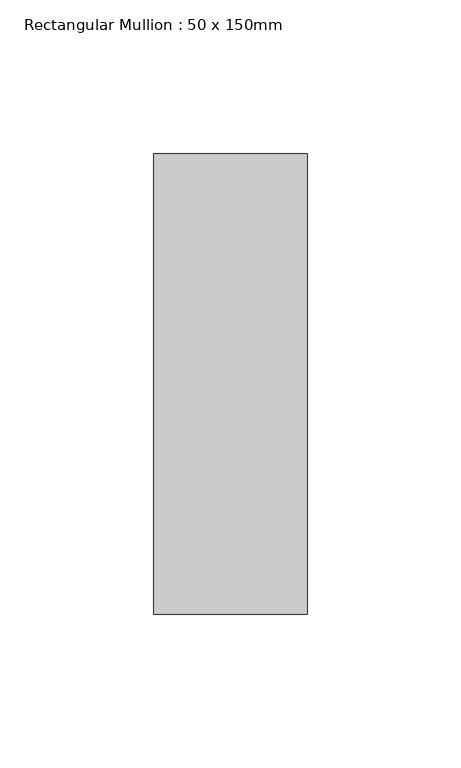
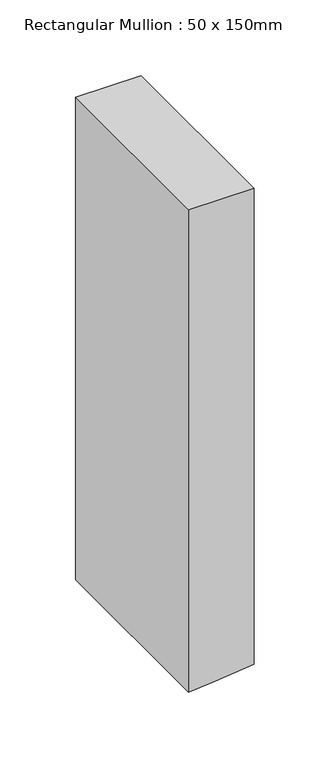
"""IFC4 building model written with IfcOpenShell, lengths in millimetres: member geometry, Rectangular Mullion : 50 x 150mm."""

from ifc_helpers import new_model, si_unit, frame, origin, place, context, project, spatial, polyline, outline, extrude, source, transform, mapped, element, save


def rectangular_mullion_50_x_150mm_ad32bf59(model_context):
    return source(origin(), model_context, "Body", "SweptSolid", [
        extrude(outline(polyline([(0.0, 25.0), (0.0, -25.0), (-389.5651208, -25.0), (-387.5543537, -5.0022633), (-384.5376341, 25.0), (0.0, 25.0)])), frame((0.0, -75.0, 0.0), z_axis=(0.0, 1.0, 0.0), x_axis=(0.0, 0.0, 1.0)), (0.0, 0.0, 1.0), 150.0),
    ])


if __name__ == "__main__":
    model = new_model("IFC4")
    model_context = context("Model", 3, world=origin())
    ifc_project = project(units=[si_unit("LENGTHUNIT", "METRE", prefix="MILLI")], contexts=[model_context])
    site = spatial("IfcSite", under=ifc_project)
    building = spatial("IfcBuilding", under=site)
    placement = place(None, origin())
    rectangular_mullion_50_x_150mm_shape = rectangular_mullion_50_x_150mm_ad32bf59(model_context)
    element("IfcMember", 1, ObjectType="Rectangular Mullion : 50 x 150mm", at=placement, inside=building, context=model_context, shape_type="MappedRepresentation", body=[
        mapped(rectangular_mullion_50_x_150mm_shape, transform((0.0, 0.0, 0.0), x_axis=(1.0, 0.0, 0.0), y_axis=(0.0, 1.0, 0.0), z_axis=(0.0, 0.0, 1.0))),
    ])
    save(model, "model.ifc")
